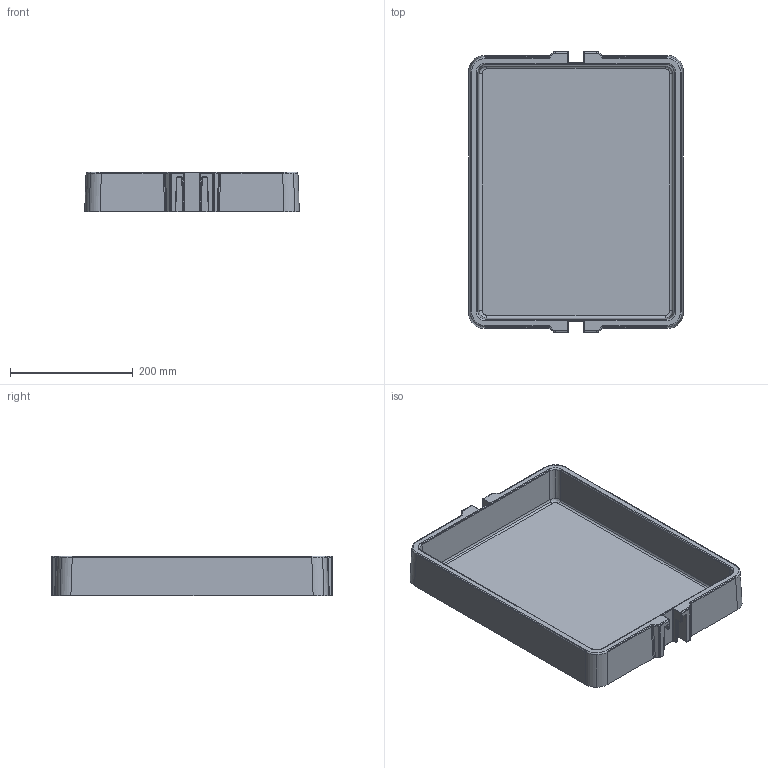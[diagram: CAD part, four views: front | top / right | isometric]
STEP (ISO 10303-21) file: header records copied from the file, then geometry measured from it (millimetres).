
FILE_DESCRIPTION(('STEP AP242'),'1');
FILE_NAME('OPO_53.154.33_volu_schn_3d.stp','2026-01-27T03:53:45',(' '),(' '),'Spatial InterOp 3D',' ',' ');
FILE_SCHEMA(('AP242_MANAGED_MODEL_BASED_3D_ENGINEERING_MIM_LF {1 0 10303 442 1 1 4}'));
Length unit declared in the file: millimetre
Products named in the file (1): 1
Bounding box: 350 x 458 x 65 mm (x, y, z)
Volume: 1736122.8 mm3; surface area: 497624 mm2
Topology: 1 solids, 1 shells, 367 faces, 1816 edges, 2303 vertices
Faces by surface type: cylinder 224, plane 74, torus 32, bspline 32, sphere 5
Entity records: 29383 total; most frequent: CARTESIAN_POINT 7605, DIRECTION 3159, ORIENTED_EDGE 1888, STYLED_ITEM 1226, PRESENTATION_STYLE_ASSIGNMENT 1226, COLOUR_RGB 1226, AXIS2_PLACEMENT_3D 1071, LINE 1017
